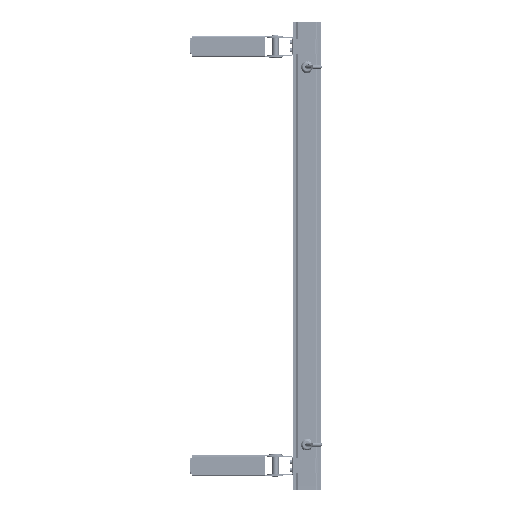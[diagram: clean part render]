
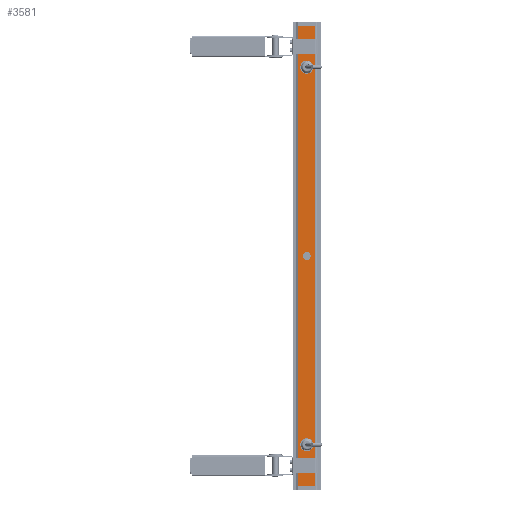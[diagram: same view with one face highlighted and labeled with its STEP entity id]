
A CAD part, top view. The second image highlights one B-rep face of the part: STEP entity #3581.
In plain terms, the highlighted planar face has unit normal (0, 0, 1).
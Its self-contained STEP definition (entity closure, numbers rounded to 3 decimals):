
#321=DIRECTION('',(-1.,0.,0.));
#322=VECTOR('',#321,36.);
#323=CARTESIAN_POINT('',(18.,-241.8,17.25));
#324=LINE('',#323,#322);
#1100=DIRECTION('',(0.,-1.,0.));
#1101=VECTOR('',#1100,983.6);
#1102=CARTESIAN_POINT('',(-18.,741.8,17.25));
#1103=LINE('',#1102,#1101);
#1104=DIRECTION('',(-1.,0.,0.));
#1105=VECTOR('',#1104,36.);
#1106=CARTESIAN_POINT('',(18.,741.8,17.25));
#1107=LINE('',#1106,#1105);
#1108=DIRECTION('',(0.,1.,0.));
#1109=VECTOR('',#1108,983.6);
#1110=CARTESIAN_POINT('',(18.,-241.8,17.25));
#1111=LINE('',#1110,#1109);
#1112=CARTESIAN_POINT('',(0.,250.,17.25));
#1113=DIRECTION('',(0.,0.,-1.));
#1114=DIRECTION('',(-1.,0.,0.));
#1115=AXIS2_PLACEMENT_3D('',#1112,#1113,#1114);
#1117=CARTESIAN_POINT('',(0.,250.,17.25));
#1118=DIRECTION('',(0.,0.,-1.));
#1119=DIRECTION('',(1.,0.,0.));
#1120=AXIS2_PLACEMENT_3D('',#1117,#1118,#1119);
#1122=CARTESIAN_POINT('',(0.,-154.,17.25));
#1123=DIRECTION('',(0.,0.,1.));
#1124=DIRECTION('',(1.,0.,0.));
#1125=AXIS2_PLACEMENT_3D('',#1122,#1123,#1124);
#1127=CARTESIAN_POINT('',(0.,-154.,17.25));
#1128=DIRECTION('',(0.,0.,1.));
#1129=DIRECTION('',(-1.,0.,0.));
#1130=AXIS2_PLACEMENT_3D('',#1127,#1128,#1129);
#1132=CARTESIAN_POINT('',(0.,654.,17.25));
#1133=DIRECTION('',(0.,0.,1.));
#1134=DIRECTION('',(1.,0.,0.));
#1135=AXIS2_PLACEMENT_3D('',#1132,#1133,#1134);
#1137=CARTESIAN_POINT('',(0.,654.,17.25));
#1138=DIRECTION('',(0.,0.,1.));
#1139=DIRECTION('',(-1.,0.,0.));
#1140=AXIS2_PLACEMENT_3D('',#1137,#1138,#1139);
#1637=CARTESIAN_POINT('',(-18.,-241.8,17.25));
#1639=VERTEX_POINT('',#1637);
#1699=CARTESIAN_POINT('',(-18.,741.8,17.25));
#1701=VERTEX_POINT('',#1699);
#1741=CARTESIAN_POINT('',(18.,-241.8,17.25));
#1742=CARTESIAN_POINT('',(18.,741.8,17.25));
#1743=VERTEX_POINT('',#1741);
#1744=VERTEX_POINT('',#1742);
#1989=CARTESIAN_POINT('',(-5.25,250.,17.25));
#1990=CARTESIAN_POINT('',(5.25,250.,17.25));
#1991=VERTEX_POINT('',#1989);
#1992=VERTEX_POINT('',#1990);
#2013=CARTESIAN_POINT('',(14.,-154.,17.25));
#2014=CARTESIAN_POINT('',(-14.,-154.,17.25));
#2015=VERTEX_POINT('',#2013);
#2016=VERTEX_POINT('',#2014);
#2017=CARTESIAN_POINT('',(14.,654.,17.25));
#2018=CARTESIAN_POINT('',(-14.,654.,17.25));
#2019=VERTEX_POINT('',#2017);
#2020=VERTEX_POINT('',#2018);
#3551=CARTESIAN_POINT('',(18.,246.,17.25));
#3552=DIRECTION('',(0.,0.,-1.));
#3553=DIRECTION('',(-1.,0.,0.));
#3554=AXIS2_PLACEMENT_3D('',#3551,#3552,#3553);
#3555=PLANE('',#3554);
#3556=ORIENTED_EDGE('',*,*,#2566,.T.);
#3558=ORIENTED_EDGE('',*,*,#3557,.F.);
#3559=ORIENTED_EDGE('',*,*,#2277,.F.);
#3561=ORIENTED_EDGE('',*,*,#3560,.F.);
#3562=EDGE_LOOP('',(#3556,#3558,#3559,#3561));
#3563=FACE_OUTER_BOUND('',#3562,.F.);
#3565=ORIENTED_EDGE('',*,*,#3564,.F.);
#3567=ORIENTED_EDGE('',*,*,#3566,.F.);
#3568=EDGE_LOOP('',(#3565,#3567));
#3569=FACE_BOUND('',#3568,.F.);
#3570=ORIENTED_EDGE('',*,*,#3541,.T.);
#3572=ORIENTED_EDGE('',*,*,#3571,.T.);
#3573=EDGE_LOOP('',(#3570,#3572));
#3574=FACE_BOUND('',#3573,.F.);
#3576=ORIENTED_EDGE('',*,*,#3575,.T.);
#3578=ORIENTED_EDGE('',*,*,#3577,.T.);
#3579=EDGE_LOOP('',(#3576,#3578));
#3580=FACE_BOUND('',#3579,.F.);
#3581=ADVANCED_FACE('',(#3563,#3569,#3574,#3580),#3555,.F.);
#1116=CIRCLE('',#1115,5.25);
#1121=CIRCLE('',#1120,5.25);
#1126=CIRCLE('',#1125,14.);
#1131=CIRCLE('',#1130,14.);
#1136=CIRCLE('',#1135,14.);
#1141=CIRCLE('',#1140,14.);
#2277=EDGE_CURVE('',#1744,#1701,#1107,.T.);
#2566=EDGE_CURVE('',#1743,#1639,#324,.T.);
#3541=EDGE_CURVE('',#2015,#2016,#1126,.T.);
#3557=EDGE_CURVE('',#1701,#1639,#1103,.T.);
#3560=EDGE_CURVE('',#1743,#1744,#1111,.T.);
#3564=EDGE_CURVE('',#1991,#1992,#1116,.T.);
#3566=EDGE_CURVE('',#1992,#1991,#1121,.T.);
#3571=EDGE_CURVE('',#2016,#2015,#1131,.T.);
#3575=EDGE_CURVE('',#2019,#2020,#1136,.T.);
#3577=EDGE_CURVE('',#2020,#2019,#1141,.T.);
